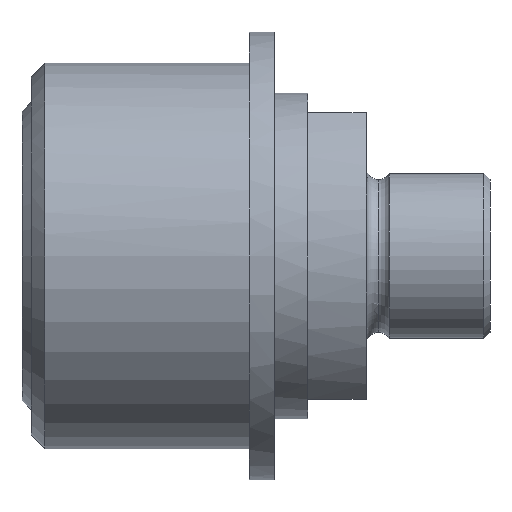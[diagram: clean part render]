
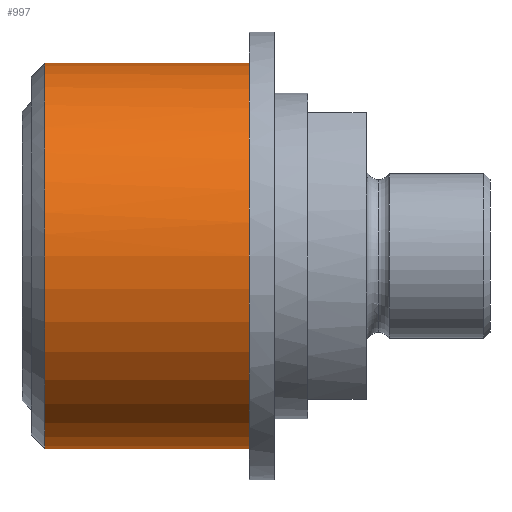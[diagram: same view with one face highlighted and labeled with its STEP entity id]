
A CAD part, front view. The second image highlights one B-rep face of the part: STEP entity #997.
In plain terms, the highlighted cylindrical face has radius 28 mm (diameter 56 mm), a partial arc.
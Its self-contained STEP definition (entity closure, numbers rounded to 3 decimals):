
#831=CARTESIAN_POINT('Vertex',(0.,0.,28.)) ;
#834=CARTESIAN_POINT('Axis2P3D Location',(0.,0.,0.)) ;
#838=CARTESIAN_POINT('Vertex',(0.,-28.,0.)) ;
#841=CARTESIAN_POINT('Axis2P3D Location',(0.,0.,0.)) ;
#845=CARTESIAN_POINT('Vertex',(0.,0.,-28.)) ;
#931=CARTESIAN_POINT('Line Origine',(35.,0.,-28.)) ;
#935=CARTESIAN_POINT('Vertex',(-29.697,0.,-28.)) ;
#952=CARTESIAN_POINT('Vertex',(-29.697,0.,28.)) ;
#955=CARTESIAN_POINT('Line Origine',(35.,0.,28.)) ;
#969=CARTESIAN_POINT('Axis2P3D Location',(35.,0.,0.)) ;
#975=CARTESIAN_POINT('Control Point',(-29.697,0.,28.)) ;
#976=CARTESIAN_POINT('Control Point',(-29.697,-8.796,28.)) ;
#977=CARTESIAN_POINT('Control Point',(-29.697,-17.601,24.556)) ;
#978=CARTESIAN_POINT('Control Point',(-29.697,-24.556,17.601)) ;
#979=CARTESIAN_POINT('Control Point',(-29.697,-28.,8.796)) ;
#980=CARTESIAN_POINT('Control Point',(-29.697,-28.,0.)) ;
#981=CARTESIAN_POINT('Vertex',(-29.697,-28.,0.)) ;
#984=CARTESIAN_POINT('Axis2P3D Location',(-29.697,0.,0.)) ;
#835=DIRECTION('Axis2P3D Direction',(1.,0.,-0.)) ;
#842=DIRECTION('Axis2P3D Direction',(1.,0.,-0.)) ;
#932=DIRECTION('Vector Direction',(-1.,0.,0.)) ;
#956=DIRECTION('Vector Direction',(-1.,0.,0.)) ;
#970=DIRECTION('Axis2P3D Direction',(-1.,-0.,-0.)) ;
#971=DIRECTION('Axis2P3D XDirection',(0.,0.,-1.)) ;
#985=DIRECTION('Axis2P3D Direction',(-1.,-0.,-0.)) ;
#836=AXIS2_PLACEMENT_3D('Circle Axis2P3D',#834,#835,$) ;
#843=AXIS2_PLACEMENT_3D('Circle Axis2P3D',#841,#842,$) ;
#972=AXIS2_PLACEMENT_3D('Cylinder Axis2P3D',#969,#970,#971) ;
#986=AXIS2_PLACEMENT_3D('Circle Axis2P3D',#984,#985,$) ;
#990=ORIENTED_EDGE('',*,*,#959,.T.) ;
#991=ORIENTED_EDGE('',*,*,#983,.T.) ;
#992=ORIENTED_EDGE('',*,*,#988,.T.) ;
#993=ORIENTED_EDGE('',*,*,#937,.T.) ;
#994=ORIENTED_EDGE('',*,*,#847,.F.) ;
#995=ORIENTED_EDGE('',*,*,#840,.F.) ;
#933=VECTOR('Line Direction',#932,1.) ;
#957=VECTOR('Line Direction',#956,1.) ;
#997=ADVANCED_FACE('AGS3412M24',(#996),#973,.T.) ;
#974=B_SPLINE_CURVE_WITH_KNOTS('',5,(#975,#976,#977,#978,#979,#980),.UNSPECIFIED.,.F.,.U.,(6,6),(-21.991,21.991),.UNSPECIFIED.) ;
#837=CIRCLE('generated circle',#836,28.) ;
#844=CIRCLE('generated circle',#843,28.) ;
#987=CIRCLE('generated circle',#986,28.) ;
#973=CYLINDRICAL_SURFACE('generated cylinder',#972,28.) ;
#840=EDGE_CURVE('',#832,#839,#837,.T.) ;
#847=EDGE_CURVE('',#839,#846,#844,.T.) ;
#937=EDGE_CURVE('',#936,#846,#934,.F.) ;
#959=EDGE_CURVE('',#832,#953,#958,.T.) ;
#983=EDGE_CURVE('',#953,#982,#974,.T.) ;
#988=EDGE_CURVE('',#982,#936,#987,.F.) ;
#989=EDGE_LOOP('',(#990,#991,#992,#993,#994,#995)) ;
#996=FACE_OUTER_BOUND('',#989,.T.) ;
#934=LINE('Line',#931,#933) ;
#958=LINE('Line',#955,#957) ;
#832=VERTEX_POINT('',#831) ;
#839=VERTEX_POINT('',#838) ;
#846=VERTEX_POINT('',#845) ;
#936=VERTEX_POINT('',#935) ;
#953=VERTEX_POINT('',#952) ;
#982=VERTEX_POINT('',#981) ;
